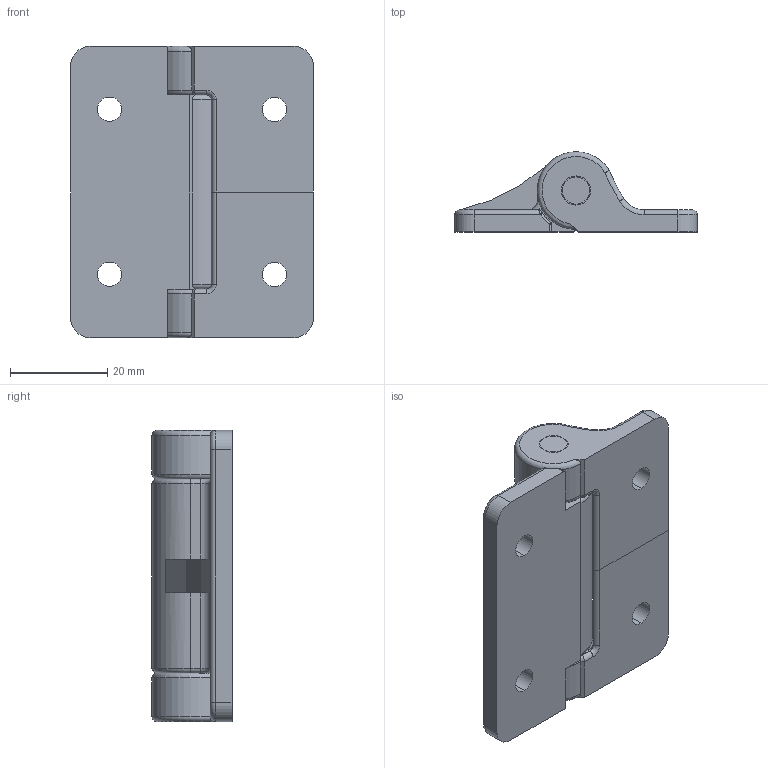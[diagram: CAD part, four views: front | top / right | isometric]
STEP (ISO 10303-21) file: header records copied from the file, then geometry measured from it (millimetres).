
FILE_DESCRIPTION (( 'STEP AP214' ), '1' );
FILE_NAME ('B17 KH-69-2.STEP', '2012-03-12T06:23:27', ( '' ), ( '' ), 'SwSTEP 2.0', 'SolidWorks 2012', '' );
FILE_SCHEMA (( 'AUTOMOTIVE_DESIGN' ));
Length unit declared in the file: millimetre
Products named in the file (5): SHAFT; HINGE B-2; HINGE B-1; HINGE A; B17 KH-69-2
Assembly tree (4 placements, depth 2):
  B17 KH-69-2
    HINGE A
    HINGE B-1
    HINGE B-2
    SHAFT
Bounding box: 50 x 16.5 x 60 mm (x, y, z)
Volume: 22681.5 mm3; surface area: 12216.4 mm2
Topology: 4 solids, 4 shells, 152 faces, 376 edges, 236 vertices
Faces by surface type: cylinder 74, plane 46, torus 27, bspline 4, sphere 1
Entity records: 4996 total; most frequent: CARTESIAN_POINT 1131, DIRECTION 812, ORIENTED_EDGE 752, EDGE_CURVE 376, AXIS2_PLACEMENT_3D 323, VERTEX_POINT 236, EDGE_LOOP 170, CIRCLE 168
